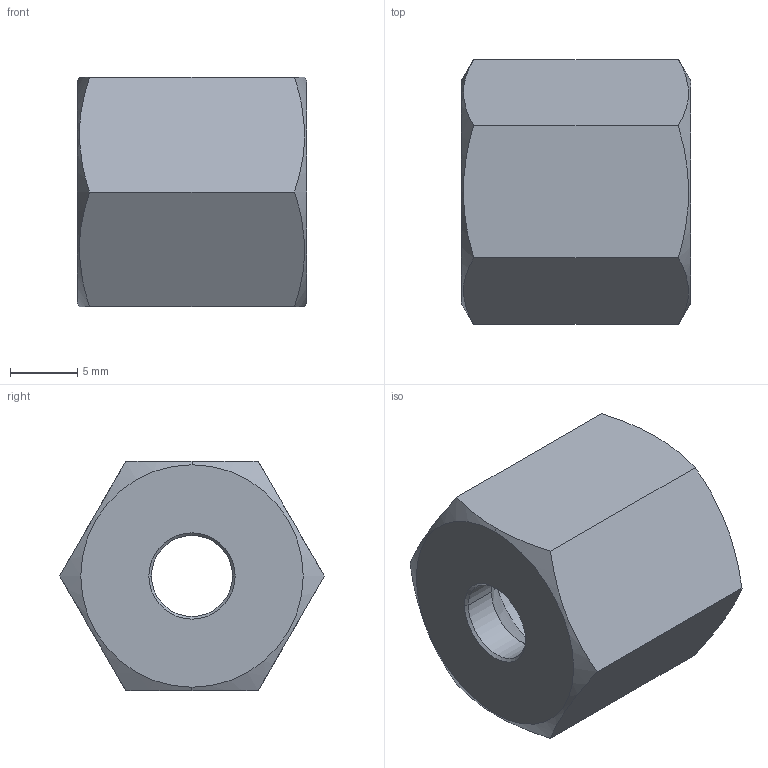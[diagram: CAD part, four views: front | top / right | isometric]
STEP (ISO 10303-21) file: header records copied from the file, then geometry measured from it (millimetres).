
FILE_DESCRIPTION((''),'2;1');
FILE_NAME('100214.stp','2006-03-06T15:10:55',('Dario Falcomer'),('CAST S.p.A.'),'AutoCAD STEP 2000i','AutoCAD 2000i',', , ');
FILE_SCHEMA(('CONFIG_CONTROL_DESIGN'));
Length unit declared in the file: millimetre
Products named in the file (2): 100214.0; CHIAVE_DADI#0
Assembly tree (1 placements, depth 2):
  100214.0
    CHIAVE_DADI#0
Bounding box: 17 x 19.63 x 17 mm (x, y, z)
Volume: 2523.2 mm3; surface area: 1908.1 mm2
Topology: 1 solids, 1 shells, 22 faces, 52 edges, 32 vertices
Faces by surface type: cone 10, plane 8, cylinder 4
Entity records: 725 total; most frequent: CARTESIAN_POINT 140, ORIENTED_EDGE 104, DIRECTION 100, EDGE_CURVE 52, AXIS2_PLACEMENT_3D 40, VERTEX_POINT 32, EDGE_LOOP 24, FACE_OUTER_BOUND 22
